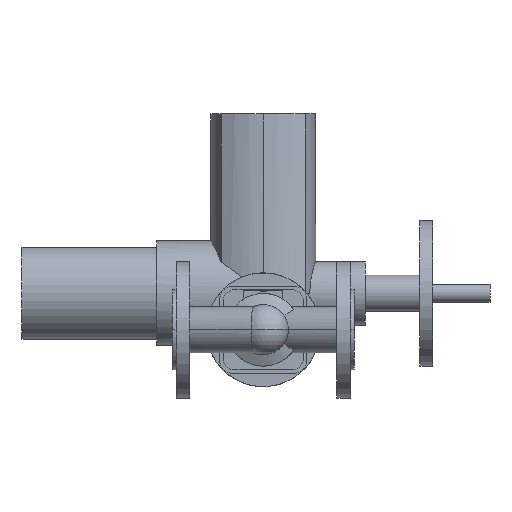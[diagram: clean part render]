
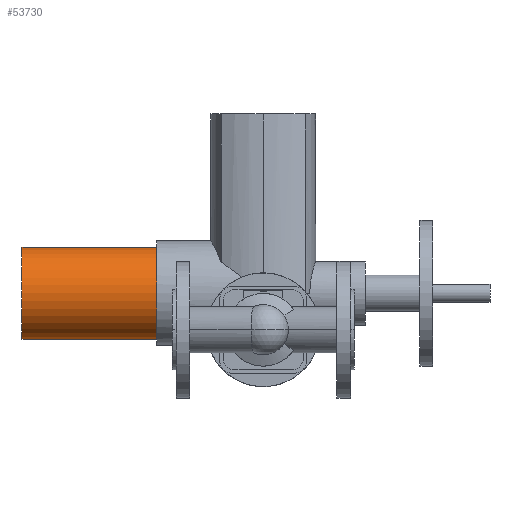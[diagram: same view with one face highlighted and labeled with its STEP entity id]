
A CAD part, front view. The second image highlights one B-rep face of the part: STEP entity #53730.
In plain terms, the highlighted cylindrical face has radius 50.5 mm (diameter 101 mm), a partial arc.
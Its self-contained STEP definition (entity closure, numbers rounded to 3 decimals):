
#53180=CARTESIAN_POINT('',(-91.,585.,40.));
#53190=DIRECTION('',(1.,0.,0.));
#53200=DIRECTION('',(0.,0.,-1.));
#53210=AXIS2_PLACEMENT_3D('',#53180,#53190,#53200);
#53220=CYLINDRICAL_SURFACE('',#53210,50.5);
#53230=CARTESIAN_POINT('',(-91.,585.,90.5));
#53240=DIRECTION('',(1.,0.,0.));
#53250=VECTOR('',#53240,1.);
#53260=LINE('',#53230,#53250);
#53270=CARTESIAN_POINT('',(-165.,585.,90.5));
#53280=VERTEX_POINT('',#53270);
#53290=CARTESIAN_POINT('',(-17.,585.,90.5));
#53300=VERTEX_POINT('',#53290);
#53310=SURFACE_CURVE('',#53260,(#53220,#53220),.CURVE_3D.);
#53320=EDGE_CURVE('',#53280,#53300,#53310,.T.);
#53330=ORIENTED_EDGE('',*,*,#53320,.F.);
#53340=CARTESIAN_POINT('',(-17.,585.,40.));
#53350=DIRECTION('',(-1.,0.,0.));
#53360=DIRECTION('',(0.,0.,-1.));
#53370=AXIS2_PLACEMENT_3D('',#53340,#53350,#53360);
#53380=CIRCLE('',#53370,50.5);
#53390=CARTESIAN_POINT('',(-17.,585.,-10.5));
#53400=VERTEX_POINT('',#53390);
#53410=CARTESIAN_POINT('',(-17.,585.,-14.));
#53420=DIRECTION('',(-1.,0.,0.));
#53430=DIRECTION('',(0.,0.,-1.));
#53440=AXIS2_PLACEMENT_3D('',#53410,#53420,#53430);
#53450=PLANE('',#53440);
#53460=SURFACE_CURVE('',#53380,(#53450,#53220),.CURVE_3D.);
#53470=EDGE_CURVE('',#53400,#53300,#53460,.T.);
#53480=ORIENTED_EDGE('',*,*,#53470,.T.);
#53490=CARTESIAN_POINT('',(-91.,585.,-10.5));
#53500=DIRECTION('',(1.,0.,0.));
#53510=VECTOR('',#53500,1.);
#53520=LINE('',#53490,#53510);
#53530=CARTESIAN_POINT('',(-165.,585.,-10.5));
#53540=VERTEX_POINT('',#53530);
#53550=SURFACE_CURVE('',#53520,(#53220,#53220),.CURVE_3D.);
#53560=EDGE_CURVE('',#53540,#53400,#53550,.T.);
#53570=ORIENTED_EDGE('',*,*,#53560,.T.);
#53580=CARTESIAN_POINT('',(-165.,585.,40.));
#53590=DIRECTION('',(-1.,0.,0.));
#53600=DIRECTION('',(0.,0.,-1.));
#53610=AXIS2_PLACEMENT_3D('',#53580,#53590,#53600);
#53620=CIRCLE('',#53610,50.5);
#53630=CARTESIAN_POINT('',(-165.,585.,14.75));
#53640=DIRECTION('',(-1.,0.,0.));
#53650=DIRECTION('',(0.,0.,-1.));
#53660=AXIS2_PLACEMENT_3D('',#53630,#53640,#53650);
#53670=PLANE('',#53660);
#53680=SURFACE_CURVE('',#53620,(#53220,#53670),.CURVE_3D.);
#53690=EDGE_CURVE('',#53540,#53280,#53680,.T.);
#53700=ORIENTED_EDGE('',*,*,#53690,.F.);
#53710=EDGE_LOOP('',(#53700,#53570,#53480,#53330));
#53720=FACE_OUTER_BOUND('',#53710,.T.);
#53730=ADVANCED_FACE('',(#53720),#53220,.T.);
